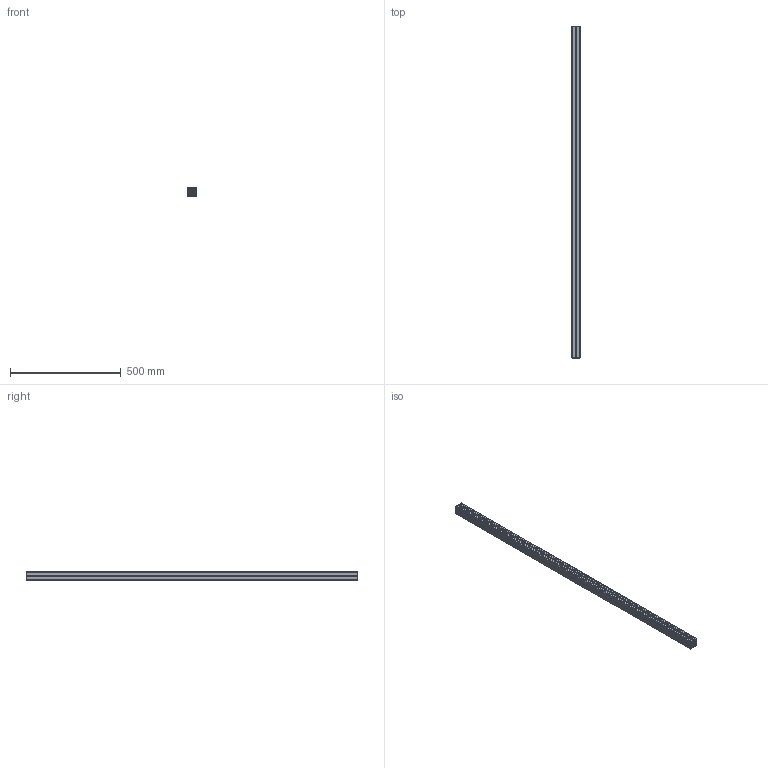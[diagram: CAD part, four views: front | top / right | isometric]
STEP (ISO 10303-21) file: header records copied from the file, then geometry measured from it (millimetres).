
FILE_DESCRIPTION (( 'STEP AP214' ), '1' );
FILE_NAME ('PEP4040-1500.STEP', '2019-10-30T01:33:00', ( '微软用户' ), ( '微软中国' ), 'SwSTEP 2.0', 'SolidWorks 2016', '' );
FILE_SCHEMA (( 'AUTOMOTIVE_DESIGN' ));
Length unit declared in the file: millimetre
Products named in the file (1): PEP4040-1500
Bounding box: 40 x 1500 x 40 mm (x, y, z)
Volume: 885443.4 mm3; surface area: 919170.1 mm2
Topology: 1 solids, 1 shells, 248 faces, 738 edges, 492 vertices
Faces by surface type: plane 130, cylinder 118
Entity records: 8448 total; most frequent: CARTESIAN_POINT 1479, ORIENTED_EDGE 1476, DIRECTION 1472, EDGE_CURVE 738, LINE 502, VECTOR 502, VERTEX_POINT 492, AXIS2_PLACEMENT_3D 485
